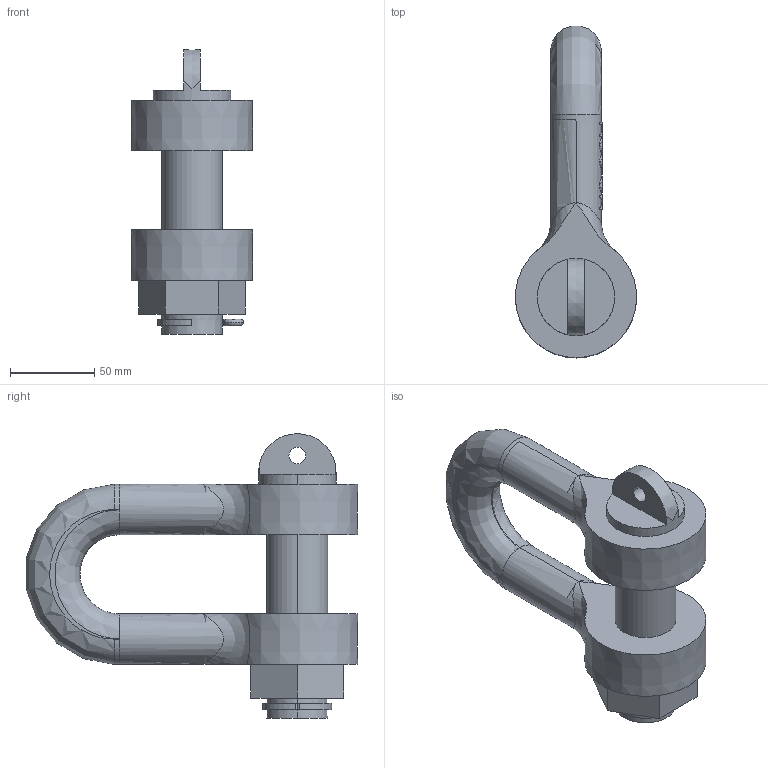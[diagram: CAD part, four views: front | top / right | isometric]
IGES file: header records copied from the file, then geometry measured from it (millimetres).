
Start section:  PTC IGES file: VC-SCH-5_25t_7906439_M31413-P-1.igs
Global section: file name: VC-SCH-5_25t_7906439_M31413-P-1.igs; native system: Pro/ENGINEER by Parametric Technology Corporation; preprocessor: 2010140; author: Andreas.Wendler; organization: Unknown; date: 20160606.080538; units: millimetre
Bounding box: 71.92 x 196.96 x 169 mm (x, y, z)
Volume: 573886.3 mm3; surface area: 66800.7 mm2
Topology: 1 solids, 1 shells, 384 faces, 1072 edges, 708 vertices
Faces by surface type: bspline 337, revolution 47
